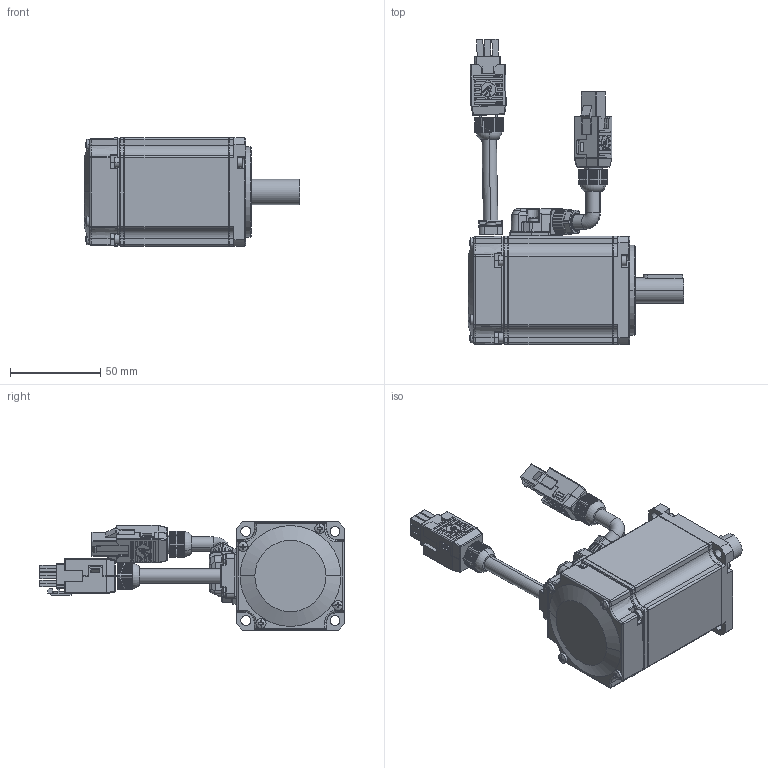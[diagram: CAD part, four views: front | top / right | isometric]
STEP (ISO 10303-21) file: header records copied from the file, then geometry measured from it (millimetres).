
FILE_DESCRIPTION (( 'STEP AP214' ), '1' );
FILE_NAME ('ACM1S-06004H2F.STEP', '2023-05-07T07:14:01', ( 'Windows 蚚誧' ), ( 'Organization' ), 'SwSTEP 2.0', 'SolidWorks 2021', '' );
FILE_SCHEMA (( 'AUTOMOTIVE_DESIGN' ));
Length unit declared in the file: millimetre
Products named in the file (1): ACM1S-06004H2F
Bounding box: 119.5 x 169.28 x 60 mm (x, y, z)
Surface area: 57423.9 mm2 (no closed solid volume)
Topology: 0 solids, 67 shells, 1912 faces, 6717 edges, 4624 vertices
Faces by surface type: plane 928, cylinder 693, torus 123, cone 90, bspline 54, sphere 24
Entity records: 100385 total; most frequent: CARTESIAN_POINT 23293, DIRECTION 11540, ORIENTED_EDGE 10749, EDGE_CURVE 6697, VERTEX_POINT 4624, VECTOR 4174, LINE 4174, AXIS2_PLACEMENT_3D 3683
